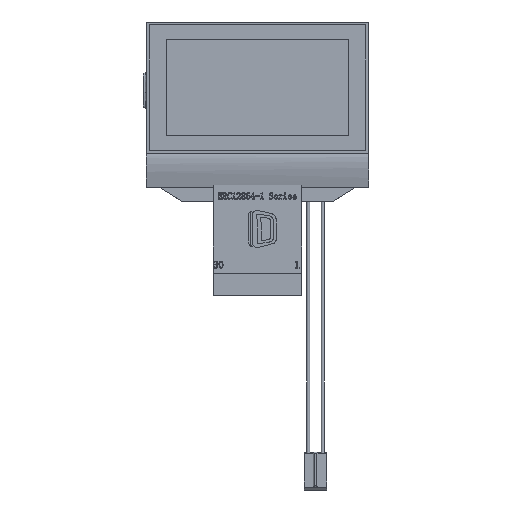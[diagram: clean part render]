
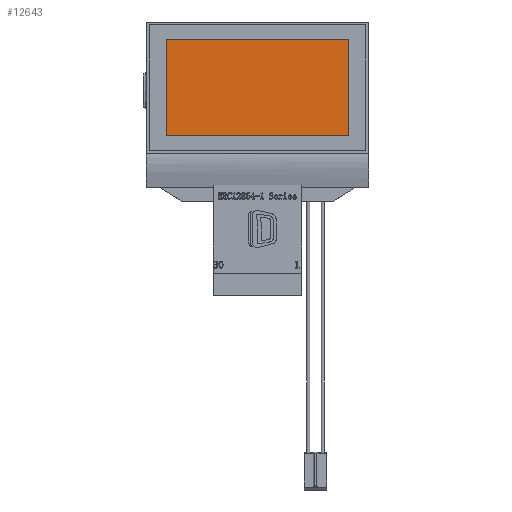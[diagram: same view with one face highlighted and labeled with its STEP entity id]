
A CAD part, top view. The second image highlights one B-rep face of the part: STEP entity #12643.
In plain terms, the highlighted planar face has unit normal (0, 0, 1).
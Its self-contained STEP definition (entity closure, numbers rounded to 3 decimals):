
#582 = DIRECTION ( 'NONE',  ( 1., 0., 0. ) ) ;
#4902 = LINE ( 'NONE', #26557, #13804 ) ;
#5095 = CARTESIAN_POINT ( 'NONE',  ( 0., -5.465, 2.9 ) ) ;
#5716 = DIRECTION ( 'NONE',  ( 1., 0., 0. ) ) ;
#5903 = VERTEX_POINT ( 'NONE', #34068 ) ;
#7424 = LINE ( 'NONE', #18782, #24058 ) ;
#8467 = LINE ( 'NONE', #5095, #27136 ) ;
#12643 = ADVANCED_FACE ( 'NONE', ( #28371 ), #28583, .T. ) ;
#13151 = VERTEX_POINT ( 'NONE', #24443 ) ;
#13368 = ORIENTED_EDGE ( 'NONE', *, *, #34133, .F. ) ;
#13804 = VECTOR ( 'NONE', #38393, 1000. ) ;
#14716 = EDGE_CURVE ( 'NONE', #5903, #23809, #8467, .T. ) ;
#14735 = ORIENTED_EDGE ( 'NONE', *, *, #20752, .F. ) ;
#15754 = VECTOR ( 'NONE', #582, 1000. ) ;
#17790 = ORIENTED_EDGE ( 'NONE', *, *, #32733, .F. ) ;
#18782 = CARTESIAN_POINT ( 'NONE',  ( -15.985, 0., 2.9 ) ) ;
#18975 = AXIS2_PLACEMENT_3D ( 'NONE', #35360, #21007, #5716 ) ;
#19301 = VERTEX_POINT ( 'NONE', #35029 ) ;
#20052 = CARTESIAN_POINT ( 'NONE',  ( -15.985, -5.465, 2.9 ) ) ;
#20533 = EDGE_LOOP ( 'NONE', ( #13368, #29839, #14735, #17790 ) ) ;
#20752 = EDGE_CURVE ( 'NONE', #13151, #5903, #4902, .T. ) ;
#21007 = DIRECTION ( 'NONE',  ( 0., 0., 1. ) ) ;
#21487 = LINE ( 'NONE', #24272, #15754 ) ;
#23809 = VERTEX_POINT ( 'NONE', #20052 ) ;
#23961 = DIRECTION ( 'NONE',  ( -1., 0., 0. ) ) ;
#24058 = VECTOR ( 'NONE', #30934, 1000. ) ;
#24272 = CARTESIAN_POINT ( 'NONE',  ( 0., 11.465, 2.9 ) ) ;
#24443 = CARTESIAN_POINT ( 'NONE',  ( 15.985, 11.465, 2.9 ) ) ;
#26557 = CARTESIAN_POINT ( 'NONE',  ( 15.985, 0., 2.9 ) ) ;
#27136 = VECTOR ( 'NONE', #23961, 1000. ) ;
#28371 = FACE_OUTER_BOUND ( 'NONE', #20533, .T. ) ;
#28583 = PLANE ( 'NONE',  #18975 ) ;
#29839 = ORIENTED_EDGE ( 'NONE', *, *, #14716, .F. ) ;
#30934 = DIRECTION ( 'NONE',  ( 0., 1., 0. ) ) ;
#32733 = EDGE_CURVE ( 'NONE', #19301, #13151, #21487, .T. ) ;
#34068 = CARTESIAN_POINT ( 'NONE',  ( 15.985, -5.465, 2.9 ) ) ;
#34133 = EDGE_CURVE ( 'NONE', #23809, #19301, #7424, .T. ) ;
#35029 = CARTESIAN_POINT ( 'NONE',  ( -15.985, 11.465, 2.9 ) ) ;
#35360 = CARTESIAN_POINT ( 'NONE',  ( 0., 0., 2.9 ) ) ;
#38393 = DIRECTION ( 'NONE',  ( 0., -1., 0. ) ) ;
